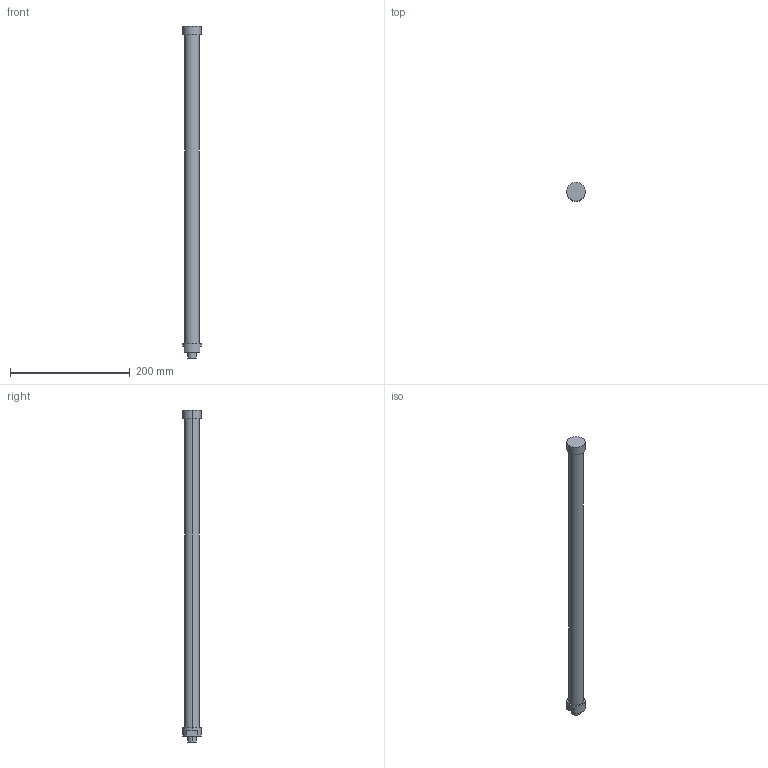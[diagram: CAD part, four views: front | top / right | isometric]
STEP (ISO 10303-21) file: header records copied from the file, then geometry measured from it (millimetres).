
FILE_DESCRIPTION(('STEP AP214'),'1');
FILE_NAME('C:/Users/Autocad/Desktop/L554-C330S1-FN.stp','2014-02-10T10:54:56',(' '),(' '),'Spatial InterOp 3D',' ',' ');
FILE_SCHEMA(('automotive_design'));
Length unit declared in the file: metre
Products named in the file (2): 1; 2
Bounding box: 31 x 31 x 554 mm (x, y, z)
Volume: 275523.2 mm3; surface area: 46336.4 mm2
Topology: 1 solids, 4 shells, 23 faces, 54 edges, 40 vertices
Faces by surface type: cylinder 12, plane 11
Entity records: 916 total; most frequent: DIRECTION 136, CARTESIAN_POINT 119, ORIENTED_EDGE 96, AXIS2_PLACEMENT_3D 57, EDGE_CURVE 54, VERTEX_POINT 40, CIRCLE 32, EDGE_LOOP 28
